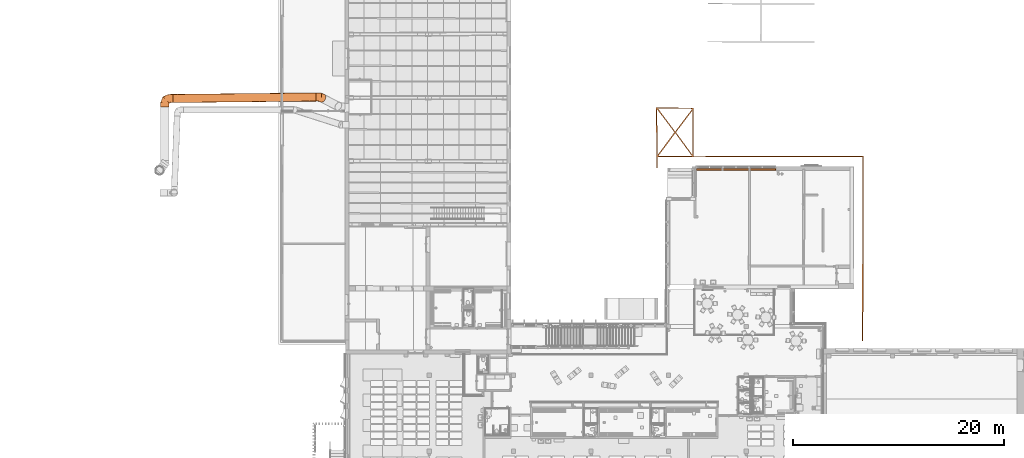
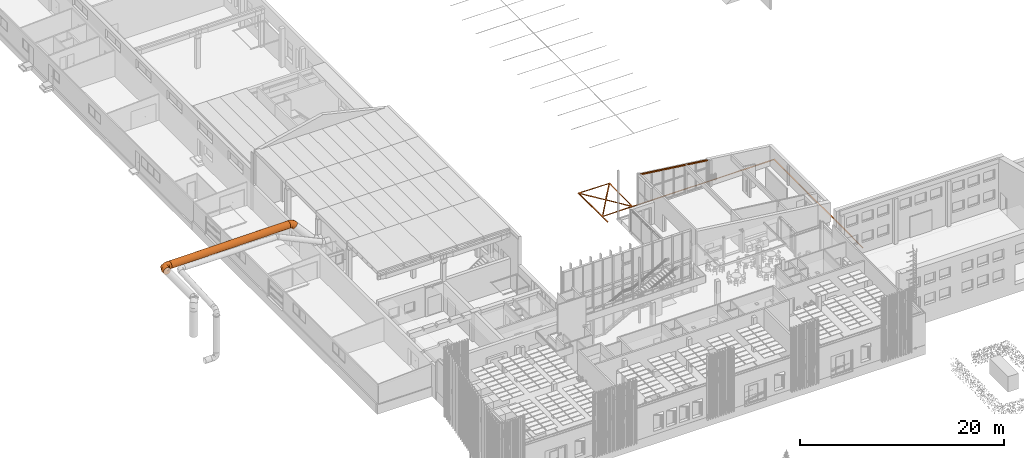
# One storey, part 295 of 301: 5 proxies.
"""IFC2X3 building model written with IfcOpenShell, lengths in millimetres."""

from ifc_helpers import new_model, entity, si_unit, converted_unit, derived_unit, money_unit, direction, frame, origin_with_axes, place, context, subcontext, project, spatial, open_shell, faceted_brep, surface_model, material, type_object, element, save


model = new_model("IFC2X3")

# Units and contexts
model_context = context("Model", 3, precision=0.01, world=origin_with_axes(), true_north=direction((0.0, 1.0)))
body_context = subcontext(model_context, "Body", "Model", "MODEL_VIEW")
ifc_project = project(units=[si_unit("LENGTHUNIT", "METRE", prefix="MILLI"), si_unit("AREAUNIT", "SQUARE_METRE"), si_unit("VOLUMEUNIT", "CUBIC_METRE"), converted_unit("PLANEANGLEUNIT", "DEGREE", entity("IfcPlaneAngleMeasure", 0.0174532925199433), si_unit("PLANEANGLEUNIT", "RADIAN"), dimensions=[0, 0, 0, 0, 0, 0, 0]), money_unit("EUR"), converted_unit("TIMEUNIT", "Year", entity("IfcTimeMeasure", 31557600.0), si_unit("TIMEUNIT", "SECOND"), dimensions=[0, 0, 1, 0, 0, 0, 0]), si_unit("MASSUNIT", "GRAM", prefix="KILO"), si_unit("THERMODYNAMICTEMPERATUREUNIT", "DEGREE_CELSIUS"), si_unit("LUMINOUSINTENSITYUNIT", "LUMEN"), si_unit("ENERGYUNIT", "JOULE", prefix="MEGA"), derived_unit("THERMALCONDUCTANCEUNIT", [(si_unit("POWERUNIT", "WATT"), 1), (si_unit("LENGTHUNIT", "METRE"), -1), (si_unit("THERMODYNAMICTEMPERATUREUNIT", "KELVIN"), -1)]), derived_unit("SPECIFICHEATCAPACITYUNIT", [(si_unit("ENERGYUNIT", "JOULE"), 1), (si_unit("MASSUNIT", "GRAM", prefix="KILO"), -1), (si_unit("THERMODYNAMICTEMPERATUREUNIT", "KELVIN"), -1)]), derived_unit("MASSDENSITYUNIT", [(si_unit("MASSUNIT", "GRAM", prefix="KILO"), 1), (si_unit("VOLUMEUNIT", "CUBIC_METRE"), -1)])], contexts=[model_context])

# Site, building, storey
site_placement = place(None, frame((0.0, 0.0, 8650.0), z_axis=(0.0, 0.0, 1.0), x_axis=(1.0, 0.0, 0.0)))
site = spatial("IfcSite", under=ifc_project, at=site_placement, Name="43301:001:0844", CompositionType="ELEMENT")
building_placement = place(site_placement, origin_with_axes())
building = spatial("IfcBuilding", under=site, at=building_placement, Name="Kuressaare Ametikooli tuulikute mehaanikute õppekorpus", CompositionType="ELEMENT")
storey_placement = place(building_placement, origin_with_axes())
storey = spatial("IfcBuildingStorey", under=building, at=storey_placement, Name="1.korrus", CompositionType="ELEMENT", Elevation=0.0)

# Proxies
ifc_material = material(Name="GENEERILINE - KONSTRUKTRIOON")
building_element_proxy_type_1 = type_object("IfcBuildingElementProxyType", Name="GENEERILINE - KONSTRUKTRIOON 20", PredefinedType="NOTDEFINED")
proxy_1_placement = place(storey_placement, frame((117393.2749186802, 49167.5009282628, -434.8162819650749), z_axis=(0.0, 0.0, 1.0), x_axis=(1.0, 0.0, 0.0)))
element("IfcBuildingElementProxy", 1, at=proxy_1_placement, inside=storey, type_object=building_element_proxy_type_1, material=ifc_material, context=body_context, shape_type="Brep", body=[
    faceted_brep([(0.0, 0.0, 0.0), (0.0, 0.0, -20.00000000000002), (0.9178780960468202, -5754.186910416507, -20.00000000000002), (0.9178780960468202, -5754.186910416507, 0.0), (3553.80888065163, -59.30618157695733, 0.0), (3553.80888065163, -59.30618157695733, -20.00000000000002), (3553.80888065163, -4635.006190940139, -20.00000000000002), (19639.24975310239, -4595.74465616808, -20.00000000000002), (19619.18748188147, -22128.53371317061, -20.00000000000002), (19519.18754734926, -22128.41928609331, -20.00000000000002), (19539.13910017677, -4692.389076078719, -20.00000000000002), (103.0034171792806, -4719.580222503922, -20.00000000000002), (103.0031282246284, -5754.170957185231, -20.00000000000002), (87.3014043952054, -184.6024816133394, -20.00000000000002), (109.4778611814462, -4550.196403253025, -20.00000000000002), (1725.191141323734, -2361.063311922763, -20.00000000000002), (158.7766061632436, -100.7504345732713, -20.00000000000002), (1789.696599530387, -2294.318817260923, -20.00000000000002), (3426.442183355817, -130.7453722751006, -20.00000000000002), (1802.28187815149, -2443.094608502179, -20.00000000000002), (186.5685980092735, -4621.456277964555, -20.00000000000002), (3402.788445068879, -4625.25795627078, -20.00000000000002), (1866.910409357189, -2363.259364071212, -20.00000000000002), (3456.011941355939, -4545.422711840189, -20.00000000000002), (3456.011941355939, -253.3279041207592, -20.00000000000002), (103.0031282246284, -5754.170957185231, 0.0), (103.0034171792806, -4719.580222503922, 0.0), (19539.13910017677, -4692.389076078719, 0.0), (19519.18754734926, -22128.41928609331, 0.0), (19619.18748188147, -22128.53371317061, 0.0), (19639.24975310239, -4595.74465616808, 0.0), (3553.80888065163, -4635.006190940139, 0.0), (1725.191141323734, -2361.063311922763, 0.0), (109.4778611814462, -4550.196403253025, 0.0), (87.3014043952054, -184.6024816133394, 0.0), (3426.442183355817, -130.7453722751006, 0.0), (1789.696599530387, -2294.318817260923, 0.0), (158.7766061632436, -100.7504345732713, 0.0), (3402.788445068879, -4625.25795627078, 0.0), (186.5685980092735, -4621.456277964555, 0.0), (1802.28187815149, -2443.094608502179, 0.0), (3456.011941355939, -253.3279041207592, 0.0), (3456.011941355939, -4545.422711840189, 0.0), (1866.910409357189, -2363.259364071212, 0.0)], [[[0, 1, 2, 3]], [[4, 5, 1, 0]], [[2, 1, 5, 6, 7, 8, 9, 10, 11, 12], [13, 14, 15], [16, 17, 18], [19, 20, 21], [22, 23, 24]], [[3, 2, 12, 25]], [[4, 0, 3, 25, 26, 27, 28, 29, 30, 31], [32, 33, 34], [35, 36, 37], [38, 39, 40], [41, 42, 43]], [[31, 6, 5, 4]], [[30, 7, 6, 31]], [[29, 8, 7, 30]], [[28, 9, 8, 29]], [[27, 10, 9, 28]], [[26, 11, 10, 27]], [[25, 12, 11, 26]], [[33, 14, 13, 34]], [[32, 15, 14, 33]], [[34, 13, 15, 32]], [[36, 17, 16, 37]], [[35, 18, 17, 36]], [[37, 16, 18, 35]], [[39, 20, 19, 40]], [[38, 21, 20, 39]], [[40, 19, 21, 38]], [[42, 23, 22, 43]], [[41, 24, 23, 42]], [[43, 22, 24, 41]]]),
])
building_element_proxy_type_2 = type_object("IfcBuildingElementProxyType", Name="IfcBuildingElementProxy", PredefinedType="NOTDEFINED")
proxy_2_placement = place(storey_placement, frame((71600.243544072, 50013.63915059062, 6479.025789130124), z_axis=(1.0, 0.0, 0.0), x_axis=(0.0, 1.0, 0.0)))
element("IfcBuildingElementProxy", 2, at=proxy_2_placement, inside=storey, type_object=building_element_proxy_type_2, context=body_context, shape_type="SurfaceModel", body=[
    surface_model("IfcShellBasedSurfaceModel", [(0.0, -400.9999999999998, 0.0), (103.78117737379, -387.3362563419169, -1.044866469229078), (240.1730995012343, -387.3362563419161, 13546.05869118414), (136.3919221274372, -400.9999999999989, 13547.10355765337), (200.4898390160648, -347.2761869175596, -2.018527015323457), (336.881761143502, -347.2761869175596, 13545.08503063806), (-103.78117737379, -387.3362563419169, 1.044866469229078), (32.61074475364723, -387.3362563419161, 13548.14842412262), (283.5354494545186, -283.5498192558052, -2.854628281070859), (419.9273715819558, -283.5498192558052, 13544.2489293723), (-200.4898390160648, -347.2761869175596, 2.018527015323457), (-64.09791688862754, -347.2761869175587, 13549.1220846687), (347.2585875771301, -200.4999999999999, -3.496191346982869), (483.6505097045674, -200.499999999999, 13543.60736630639), (-283.5354494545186, -283.5498192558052, 2.85462828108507), (-147.1435273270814, -283.5498192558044, 13549.95818593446), (387.3166268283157, -103.7864370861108, -3.899494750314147), (523.7085489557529, -103.7864370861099, 13543.20406290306), (-347.2585875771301, -200.4999999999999, 3.496191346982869), (-210.8666654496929, -200.499999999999, 13550.59974900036), (400.9796780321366, 0.0, -4.037054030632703), (537.3716001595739, 0.0, 13543.06650362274), (-387.3166268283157, -103.7864370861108, 3.899494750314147), (-250.9247047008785, -103.7864370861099, 13551.00305240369), (387.3166268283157, 103.7864370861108, -3.899494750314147), (523.7085489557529, 103.7864370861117, 13543.20406290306), (-400.9796780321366, 0.0, 4.037054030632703), (-264.5877559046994, 0.0, 13551.140611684), (347.2585875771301, 200.4999999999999, -3.496191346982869), (483.6505097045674, 200.5000000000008, 13543.60736630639), (-387.3166268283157, 103.7864370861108, 3.899494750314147), (-250.9247047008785, 103.7864370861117, 13551.00305240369), (283.5354494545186, 283.5498192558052, -2.85462828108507), (419.9273715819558, 283.5498192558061, 13544.2489293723), (-347.2585875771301, 200.4999999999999, 3.496191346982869), (-210.8666654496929, 200.5000000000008, 13550.59974900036), (200.4898390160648, 347.2761869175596, -2.018527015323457), (336.881761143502, 347.2761869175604, 13545.08503063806), (-283.5354494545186, 283.5498192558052, 2.854628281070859), (-147.1435273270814, 283.5498192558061, 13549.95818593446), (103.78117737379, 387.3362563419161, -1.044866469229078), (240.1730995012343, 387.3362563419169, 13546.05869118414), (-200.4898390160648, 347.2761869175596, 2.018527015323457), (-64.09791688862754, 347.2761869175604, 13549.1220846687), (0.0, 400.9999999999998, 0.0), (136.3919221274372, 401.0000000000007, 13547.10355765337), (-103.78117737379, 387.3362563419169, 1.044866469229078), (32.61074475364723, 387.3362563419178, 13548.14842412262)], [open_shell([[[0, 1, 2, 3]], [[1, 4, 5, 2]], [[6, 0, 3, 7]], [[4, 8, 9, 5]], [[10, 6, 7, 11]], [[8, 12, 13, 9]], [[14, 10, 11, 15]], [[12, 16, 17, 13]], [[18, 14, 15, 19]], [[16, 20, 21, 17]], [[22, 18, 19, 23]], [[20, 24, 25, 21]], [[26, 22, 23, 27]], [[24, 28, 29, 25]], [[30, 26, 27, 31]], [[28, 32, 33, 29]], [[34, 30, 31, 35]], [[32, 36, 37, 33]], [[38, 34, 35, 39]], [[36, 40, 41, 37]], [[42, 38, 39, 43]], [[40, 44, 45, 41]], [[46, 42, 43, 47]], [[44, 46, 47, 45]]])]),
])
proxy_3_placement = place(storey_placement, frame((85147.34710172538, 50150.03107271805, 6479.025789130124), z_axis=(1.0, 0.0, 0.0), x_axis=(0.0, 1.0, 0.0)))
element("IfcBuildingElementProxy", 3, at=proxy_3_placement, inside=storey, type_object=building_element_proxy_type_2, context=body_context, shape_type="SurfaceModel", body=[
    surface_model("IfcShellBasedSurfaceModel", [(-177.4139399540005, -359.6138253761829, 1.786199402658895), (-78.29851652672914, -393.2807151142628, 0.7883076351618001), (-76.91657749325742, -393.2807151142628, 138.0491578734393), (-176.0470763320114, -359.6138253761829, 137.5496870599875), (26.15282140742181, -400.1461740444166, -0.2633059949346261), (27.57895931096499, -400.1461740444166, 141.3875892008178), (-81.33131792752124, -403.2520471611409, 188.21535991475), (-180.0723736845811, -368.7055436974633, 183.2905144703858), (-264.43889656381, -301.4398477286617, 2.662364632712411), (-263.0569575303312, -301.4398477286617, 139.9232148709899), (128.8218877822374, -379.7423324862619, -1.296975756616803), (130.3183359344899, -379.7423324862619, 147.3374724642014), (22.02242953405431, -412.6964030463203, 204.5283331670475), (-94.75633650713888, -431.2950951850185, 229.0677962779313), (-192.3131141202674, -394.2747948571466, 220.5391831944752), (-267.471697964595, -311.4111797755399, 190.0894169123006), (-333.4427793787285, -222.7232426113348, 3.357094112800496), (-332.0166414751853, -222.7232426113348, 145.0079893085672), (222.7119553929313, -333.4596785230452, -2.242258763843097), (224.3000336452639, -333.4596785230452, 155.4933329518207), (122.9454816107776, -396.394994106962, 231.1177320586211), (5.125283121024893, -447.9922564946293, 255.9464816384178), (-140.414404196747, -525.6421982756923, 317.7042208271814), (-237.4731032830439, -487.5926764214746, 308.2086833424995), (-280.8967165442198, -339.4542277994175, 230.9418532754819), (-337.573171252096, -235.2734716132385, 208.1487332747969), (-379.7230878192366, -128.8284165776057, 3.823043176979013), (-378.226639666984, -128.8284165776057, 152.4574913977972), (301.4245712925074, -264.4522985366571, -3.034735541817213), (303.1193550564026, -264.4522985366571, 165.299362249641), (214.5600990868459, -355.4587344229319, 266.1715329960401), (100.5249774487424, -443.2283948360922, 299.343501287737), (-41.99307692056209, -545.3568844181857, 347.417785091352), (-326.5547842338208, -433.8013308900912, 319.5782778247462), (-354.4703176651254, -270.5693250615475, 259.5668817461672), (-385.5994939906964, -145.4810781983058, 236.2377509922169), (-400.1258953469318, -26.15414685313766, 4.028458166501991), (-398.5378170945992, -26.15414685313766, 161.7640498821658), (359.5956007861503, -177.4229314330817, -3.620400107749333), (361.4048936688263, -177.4229314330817, 176.0872956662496), (290.622897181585, -292.6773624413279, 307.3008773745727), (184.9414149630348, -417.3281595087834, 356.301420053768), (51.08362774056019, -545.3932115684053, 395.3244458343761), (-401.5886777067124, -367.933952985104, 351.0381851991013), (-408.0199981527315, -192.314478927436, 304.4635202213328), (-408.2777516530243, -48.15320275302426, 272.4422499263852), (-393.2607843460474, 78.30248475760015, 3.959340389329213), (-391.5660005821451, 78.30248475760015, 172.2934381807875), (393.2607843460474, -78.30248475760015, -3.959340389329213), (395.1845863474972, -78.30248475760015, 187.1219533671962), (345.950321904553, -212.3293249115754, 351.7028683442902), (252.6217549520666, -372.0566087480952, 422.9386499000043), (132.4726861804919, -525.7487040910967, 458.1594432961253), (-457.4613478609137, -294.4792956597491, 400.4444647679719), (-437.8964357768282, -110.0226278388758, 362.5721369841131), (-404.0624584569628, 50.07742085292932, 314.2949533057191), (-359.5956007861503, 177.4229314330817, 3.620400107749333), (-357.7863079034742, 177.4229314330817, 183.328095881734), (400.1258953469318, 26.15414685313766, -4.028458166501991), (402.1564028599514, 26.15414685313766, 197.6513416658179), (376.7719006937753, -119.8902078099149, 396.35158359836), (298.9536940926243, -310.4989239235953, 494.7139737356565), (196.6275685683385, -487.7621027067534, 531.64067623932), (-490.3651645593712, -218.443172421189, 464.4301602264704), (-442.0636006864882, -29.30182545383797, 429.9327258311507), (-373.2408796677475, 142.516537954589, 358.9436685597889), (-301.4245712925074, 264.4522985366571, 3.034735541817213), (-299.5007692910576, 264.4522985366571, 194.1160292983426), (379.7230878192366, 128.8284165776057, -3.823043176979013), (381.845225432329, 128.8284165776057, 206.9579001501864), (380.9871938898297, -21.65958420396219, 438.2042869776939), (320.7797872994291, -236.8501595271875, 566.736021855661), (239.176225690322, -434.0221315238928, 610.7605200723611), (-498.0577870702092, -145.0073194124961, 538.6347521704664), (-420.2375074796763, 44.34693894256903, 501.954773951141), (-317.9134549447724, 222.8645754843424, 403.3456595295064), (-222.7119553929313, 333.4596785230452, 2.242258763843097), (-220.6814478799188, 333.4596785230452, 203.922058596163), (333.4427793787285, 222.7232426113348, -3.357094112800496), (335.6352272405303, 222.7232426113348, 214.4074022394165), (358.3089362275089, 75.66829124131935, 474.4087859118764), (316.6126223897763, -156.1293571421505, 634.0966107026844), (257.2190368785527, -368.1910807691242, 690.1270881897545), (-480.0149758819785, -79.17626865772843, 618.0013202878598), (-373.9055683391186, 105.9046237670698, 573.7300977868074), (-241.8506568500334, 285.6459474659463, 444.475003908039), (-128.8218877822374, 379.7423324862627, 1.296975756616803), (-126.6997501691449, 379.7423324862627, 212.0779190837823), (264.43889656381, 301.4398477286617, -2.662364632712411), (266.6755432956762, 301.4398477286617, 219.4921766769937), (310.2826134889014, 165.4606846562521, 502.4978036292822), (286.7361847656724, -73.83750605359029, 692.2052274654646), (249.5264143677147, -294.7552277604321, 764.3316801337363), (-437.4663187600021, -25.43629747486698, 697.121164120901), (-306.2252283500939, 151.1761745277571, 640.3673276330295), (-150.236039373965, 326.5822071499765, 479.5288048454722), (-26.15282140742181, 400.1461740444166, 0.2633059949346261), (-23.96037354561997, 400.1461740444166, 218.0278023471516), (177.4139399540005, 359.6138253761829, -1.786199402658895), (179.6656620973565, 359.6138253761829, 221.8657044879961), (240.1811402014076, 241.5983928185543, 520.5571199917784), (233.1865042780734, 4.417340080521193, 737.1018659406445), (216.6225976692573, -218.7191045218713, 828.317375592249), (-373.3114363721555, 12.55030390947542, 770.6023970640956), (-221.8087908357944, 177.0764098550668, 697.3252463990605), (-49.31298729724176, 342.8836160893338, 506.1182037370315), (78.29851652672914, 393.2807151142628, -0.7883076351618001), (80.53516325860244, 393.2807151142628, 221.3662336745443), (152.7818159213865, 298.8927567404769, 527.3560224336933), (159.6129031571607, 73.30224281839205, 765.7268944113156), (160.7499275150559, -145.2644471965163, 877.7236551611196), (-291.9223779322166, 32.19481138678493, 833.4373945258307), (-126.4090965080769, 181.8402715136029, 740.7222660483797), (54.04076016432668, 333.4392602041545, 522.4311769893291), (71.02930073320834, 128.1228098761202, 776.1295644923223), (85.71603404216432, -79.39706929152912, 909.1835625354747), (-198.8456732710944, 32.15848423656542, 881.3440552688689), (-26.52747687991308, 165.1431102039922, 767.6009514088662), (-3.365646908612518, -25.60572376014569, 920.5531570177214), (-100.4243459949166, 12.44379809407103, 911.0576195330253)], [open_shell([[[0, 1, 2, 3]], [[1, 4, 5, 2]], [[3, 2, 6, 7]], [[8, 0, 3, 9]], [[4, 10, 11, 5]], [[2, 5, 12, 6]], [[7, 6, 13, 14]], [[9, 3, 7, 15]], [[16, 8, 9, 17]], [[10, 18, 19, 11]], [[5, 11, 20, 12]], [[6, 12, 21, 13]], [[14, 13, 22, 23]], [[15, 7, 14, 24]], [[17, 9, 15, 25]], [[26, 16, 17, 27]], [[18, 28, 29, 19]], [[11, 19, 30, 20]], [[12, 20, 31, 21]], [[13, 21, 32, 22]], [[24, 14, 23, 33]], [[25, 15, 24, 34]], [[27, 17, 25, 35]], [[36, 26, 27, 37]], [[28, 38, 39, 29]], [[19, 29, 40, 30]], [[20, 30, 41, 31]], [[21, 31, 42, 32]], [[34, 24, 33, 43]], [[35, 25, 34, 44]], [[37, 27, 35, 45]], [[46, 36, 37, 47]], [[38, 48, 49, 39]], [[29, 39, 50, 40]], [[30, 40, 51, 41]], [[31, 41, 52, 42]], [[44, 34, 43, 53]], [[45, 35, 44, 54]], [[47, 37, 45, 55]], [[56, 46, 47, 57]], [[48, 58, 59, 49]], [[39, 49, 60, 50]], [[40, 50, 61, 51]], [[41, 51, 62, 52]], [[54, 44, 53, 63]], [[55, 45, 54, 64]], [[57, 47, 55, 65]], [[66, 56, 57, 67]], [[58, 68, 69, 59]], [[49, 59, 70, 60]], [[50, 60, 71, 61]], [[51, 61, 72, 62]], [[64, 54, 63, 73]], [[65, 55, 64, 74]], [[67, 57, 65, 75]], [[76, 66, 67, 77]], [[68, 78, 79, 69]], [[59, 69, 80, 70]], [[60, 70, 81, 71]], [[61, 71, 82, 72]], [[74, 64, 73, 83]], [[75, 65, 74, 84]], [[77, 67, 75, 85]], [[86, 76, 77, 87]], [[78, 88, 89, 79]], [[69, 79, 90, 80]], [[70, 80, 91, 81]], [[71, 81, 92, 82]], [[84, 74, 83, 93]], [[85, 75, 84, 94]], [[87, 77, 85, 95]], [[96, 86, 87, 97]], [[88, 98, 99, 89]], [[79, 89, 100, 90]], [[80, 90, 101, 91]], [[81, 91, 102, 92]], [[94, 84, 93, 103]], [[95, 85, 94, 104]], [[97, 87, 95, 105]], [[106, 96, 97, 107]], [[98, 106, 107, 99]], [[89, 99, 108, 100]], [[90, 100, 109, 101]], [[91, 101, 110, 102]], [[104, 94, 103, 111]], [[105, 95, 104, 112]], [[107, 97, 105, 113]], [[99, 107, 113, 108]], [[100, 108, 114, 109]], [[101, 109, 115, 110]], [[112, 104, 111, 116]], [[113, 105, 112, 117]], [[108, 113, 117, 114]], [[109, 114, 118, 115]], [[117, 112, 116, 119]], [[114, 117, 119, 118]]])]),
])
proxy_4_placement = place(storey_placement, frame((70808.29751720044, 49213.6796931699, 6479.025789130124), z_axis=(1.0, 0.0, 0.0), x_axis=(0.0, 1.0, 0.0)))
element("IfcBuildingElementProxy", 4, at=proxy_4_placement, inside=storey, type_object=building_element_proxy_type_2, context=body_context, shape_type="SurfaceModel", body=[
    surface_model("IfcShellBasedSurfaceModel", [(0.0, 0.0, 400.9999999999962), (0.0, -103.7864370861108, 387.3362563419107), (267.5949842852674, -103.7864370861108, 387.3362563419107), (264.8949677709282, 0.0, 400.9999999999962), (0.0, -200.4999999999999, 347.2761869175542), (275.5110321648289, -200.4999999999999, 347.2761869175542), (367.7514534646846, -103.7864370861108, 428.527395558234), (357.3572550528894, 0.0, 439.0267693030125), (0.0, 103.7864370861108, 387.3362563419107), (267.5949842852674, 103.7864370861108, 387.3362563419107), (0.0, -283.5498192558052, 283.5498192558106), (288.1036458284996, -283.5498192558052, 283.5498192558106), (398.2257012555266, -200.4999999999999, 397.7447892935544), (409.9488270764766, -103.7864370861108, 528.2640985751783), (396.312958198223, 0.0, 531.1015375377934), (367.7514534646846, 103.7864370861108, 428.527395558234), (0.0, 200.5000000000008, 347.2761869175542), (275.5110321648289, 200.5000000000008, 347.2761869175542), (0.0, -347.2761869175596, 200.5000000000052), (304.5146594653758, -347.2761869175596, 200.5000000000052), (446.7032287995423, -283.5498192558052, 348.776734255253), (449.9271717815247, -200.4999999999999, 519.9451484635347), (412.6428305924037, -103.7864370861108, 795.845521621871), (398.9797793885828, 0.0, 795.9830809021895), (409.9488270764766, 103.7864370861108, 528.2640985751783), (398.2257012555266, 200.5000000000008, 397.7447892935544), (0.0, 283.5498192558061, 283.5498192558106), (288.1036458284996, 283.5498192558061, 283.5498192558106), (0.0, -387.3362563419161, 103.7864370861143), (323.6256896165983, -387.3362563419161, 103.7864370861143), (509.8803727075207, -347.2761869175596, 284.9603224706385), (513.523534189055, -283.5498192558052, 506.7116099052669), (452.7008698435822, -200.4999999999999, 795.4422182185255), (412.6428305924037, 103.7864370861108, 795.845521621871), (449.9271717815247, 200.5000000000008, 519.9451484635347), (446.7032287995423, 283.5498192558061, 348.776734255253), (0.0, 347.2761869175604, 200.5000000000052), (304.5146594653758, 347.2761869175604, 200.5000000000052), (0.0, -400.9999999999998, 0.0), (344.1343511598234, -400.9999999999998, 0.0), (583.4517150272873, -387.3362563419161, 210.6445369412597), (596.403927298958, -347.2761869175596, 489.4653266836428), (516.4240079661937, -283.5498192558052, 794.8006551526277), (452.7008698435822, 200.5000000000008, 795.4422182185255), (513.523534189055, 283.5498192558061, 506.7116099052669), (509.8803727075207, 347.2761869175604, 284.9603224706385), (0.0, 387.3362563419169, 103.7864370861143), (323.6256896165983, 387.3362563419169, 103.7864370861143), (0.0, -387.3362563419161, -103.7864370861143), (364.6430127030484, -387.3362563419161, -103.7864370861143), (662.403490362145, -400.9999999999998, 130.8938756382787), (692.9201892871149, -387.3362563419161, 469.3816044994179), (599.4696184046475, -347.2761869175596, 793.964553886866), (516.4240079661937, 283.5498192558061, 794.8006551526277), (596.403927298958, 347.2761869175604, 489.4653266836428), (583.4517150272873, 387.3362563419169, 210.6445369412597), (0.0, 400.9999999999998, 0.0), (344.1343511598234, 400.9999999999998, 0.0), (0.0, -347.2761869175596, -200.5000000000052), (383.7540428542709, -347.2761869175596, -200.5000000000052), (741.3552656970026, -387.3362563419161, 51.14321433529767), (796.4948963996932, -400.9999999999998, 447.8291158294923), (696.1782800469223, -387.3362563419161, 792.9908933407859), (599.4696184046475, 347.2761869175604, 793.964553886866), (692.9201892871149, 387.3362563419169, 469.3816044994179), (662.403490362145, 400.9999999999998, 130.8938756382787), (0.0, 387.3362563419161, -103.7864370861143), (364.6430127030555, 387.3362563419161, -103.7864370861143), (0.0, -283.5498192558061, -283.5498192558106), (400.1650564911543, -283.5498192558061, -283.5498192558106), (814.9266080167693, -347.2761869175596, -23.17257119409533), (900.0696035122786, -387.3362563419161, 426.2766271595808), (799.9594574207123, -400.9999999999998, 791.9460268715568), (696.1782800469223, 387.3362563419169, 792.9908933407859), (796.4948963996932, 400.9999999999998, 447.8291158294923), (741.3552656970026, 387.3362563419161, 51.14321433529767), (0.0, 347.2761869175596, -200.5000000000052), (383.7540428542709, 347.2761869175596, -200.5000000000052), (0.0, -200.4999999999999, -347.2761869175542), (412.757670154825, -200.4999999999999, -347.2761869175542), (878.1037519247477, -283.5498192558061, -86.98898297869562), (996.5858655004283, -347.2761869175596, 406.1929049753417), (903.7406347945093, -387.3362563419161, 790.9011604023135), (799.9594574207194, 400.9999999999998, 791.9460268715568), (900.0696035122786, 387.3362563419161, 426.2766271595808), (814.9266080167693, 347.2761869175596, -23.17257119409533), (0.0, 283.5498192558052, -283.5498192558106), (400.1650564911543, 283.5498192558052, -283.5498192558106), (0.0, -103.7864370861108, -387.3362563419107), (420.6737180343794, -103.7864370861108, -387.3362563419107), (926.5812794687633, -200.4999999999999, -135.957038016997), (1079.466258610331, -283.5498192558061, 388.9466217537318), (1000.449296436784, -347.2761869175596, 789.9274998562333), (903.7406347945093, 387.3362563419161, 790.9011604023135), (996.5858655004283, 347.2761869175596, 406.1929049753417), (878.1037519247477, 283.5498192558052, -86.98898297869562), (0.0, 200.4999999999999, -347.2761869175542), (412.757670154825, 200.4999999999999, -347.2761869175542), (0.0, 0.0, -400.9999999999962), (423.3737345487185, 0.0, -400.9999999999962), (957.0555272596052, -103.7864370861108, -166.7396442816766), (1143.062621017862, -200.4999999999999, 375.713083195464), (1083.494906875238, -283.5498192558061, 789.0913985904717), (1000.449296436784, 347.2761869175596, 789.9274998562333), (1079.466258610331, 283.5498192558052, 388.9466217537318), (926.5812794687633, 200.4999999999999, -135.957038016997), (0.0, 103.7864370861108, -387.3362563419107), (420.6737180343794, 103.7864370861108, -387.3362563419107), (967.4497256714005, 0.0, -177.2390180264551), (1183.040965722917, -103.7864370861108, 367.3941330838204), (1147.21804499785, -200.4999999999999, 788.4498355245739), (1083.494906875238, 283.5498192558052, 789.0913985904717), (1143.062621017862, 200.4999999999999, 375.713083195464), (957.0555272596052, 103.7864370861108, -166.7396442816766), (1196.67683460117, 0.0, 364.5566941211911), (1187.276084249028, -103.7864370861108, 788.0465321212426), (1147.21804499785, 200.4999999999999, 788.4498355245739), (1183.040965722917, 103.7864370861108, 367.3941330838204), (1200.939135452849, 0.0, 787.9089728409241), (1187.276084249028, 103.7864370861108, 788.0465321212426)], [open_shell([[[0, 1, 2, 3]], [[1, 4, 5, 2]], [[3, 2, 6, 7]], [[8, 0, 3, 9]], [[4, 10, 11, 5]], [[2, 5, 12, 6]], [[7, 6, 13, 14]], [[9, 3, 7, 15]], [[16, 8, 9, 17]], [[10, 18, 19, 11]], [[5, 11, 20, 12]], [[6, 12, 21, 13]], [[14, 13, 22, 23]], [[15, 7, 14, 24]], [[17, 9, 15, 25]], [[26, 16, 17, 27]], [[18, 28, 29, 19]], [[11, 19, 30, 20]], [[12, 20, 31, 21]], [[13, 21, 32, 22]], [[24, 14, 23, 33]], [[25, 15, 24, 34]], [[27, 17, 25, 35]], [[36, 26, 27, 37]], [[28, 38, 39, 29]], [[19, 29, 40, 30]], [[20, 30, 41, 31]], [[21, 31, 42, 32]], [[34, 24, 33, 43]], [[35, 25, 34, 44]], [[37, 27, 35, 45]], [[46, 36, 37, 47]], [[38, 48, 49, 39]], [[29, 39, 50, 40]], [[30, 40, 51, 41]], [[31, 41, 52, 42]], [[44, 34, 43, 53]], [[45, 35, 44, 54]], [[47, 37, 45, 55]], [[56, 46, 47, 57]], [[48, 58, 59, 49]], [[39, 49, 60, 50]], [[40, 50, 61, 51]], [[41, 51, 62, 52]], [[54, 44, 53, 63]], [[55, 45, 54, 64]], [[57, 47, 55, 65]], [[66, 56, 57, 67]], [[58, 68, 69, 59]], [[49, 59, 70, 60]], [[50, 60, 71, 61]], [[51, 61, 72, 62]], [[64, 54, 63, 73]], [[65, 55, 64, 74]], [[67, 57, 65, 75]], [[76, 66, 67, 77]], [[68, 78, 79, 69]], [[59, 69, 80, 70]], [[60, 70, 81, 71]], [[61, 71, 82, 72]], [[74, 64, 73, 83]], [[75, 65, 74, 84]], [[77, 67, 75, 85]], [[86, 76, 77, 87]], [[78, 88, 89, 79]], [[69, 79, 90, 80]], [[70, 80, 91, 81]], [[71, 81, 92, 82]], [[84, 74, 83, 93]], [[85, 75, 84, 94]], [[87, 77, 85, 95]], [[96, 86, 87, 97]], [[88, 98, 99, 89]], [[79, 89, 100, 90]], [[80, 90, 101, 91]], [[81, 91, 102, 92]], [[94, 84, 93, 103]], [[95, 85, 94, 104]], [[97, 87, 95, 105]], [[106, 96, 97, 107]], [[98, 106, 107, 99]], [[89, 99, 108, 100]], [[90, 100, 109, 101]], [[91, 101, 110, 102]], [[104, 94, 103, 111]], [[105, 95, 104, 112]], [[107, 97, 105, 113]], [[99, 107, 113, 108]], [[100, 108, 114, 109]], [[101, 109, 115, 110]], [[112, 104, 111, 116]], [[113, 105, 112, 117]], [[108, 113, 117, 114]], [[109, 114, 118, 115]], [[117, 112, 116, 119]], [[114, 117, 119, 118]]])]),
])
building_element_proxy_type_3 = type_object("IfcBuildingElementProxyType", Name="GENEERILINE - KONSTRUKTRIOON 160 x 130", PredefinedType="NOTDEFINED")
proxy_5_placement = place(storey_placement, frame((128716.3501978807, 43300.53176304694, 3169.882544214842), z_axis=(0.0, 0.0, 1.0), x_axis=(0.0, 1.0, 0.0)))
element("IfcBuildingElementProxy", 5, at=proxy_5_placement, inside=storey, type_object=building_element_proxy_type_3, material=ifc_material, context=body_context, shape_type="Brep", body=[
    faceted_brep([(75.00000000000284, 4971.779909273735, 499.4704948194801), (75.00000000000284, 5126.779909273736, 519.1273011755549), (-79.9999999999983, 5126.779909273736, 519.1273011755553), (-79.9999999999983, 7536.779909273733, 824.7589354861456), (75.00000000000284, 7536.779909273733, 824.7589354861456), (75.00000000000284, 7614.279909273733, 834.5873386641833), (79.9999999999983, 7614.279909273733, 834.5873386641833), (79.9999999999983, 0.0, -131.0412143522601), (-79.9999999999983, 0.0, -131.0412143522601), (-79.9999999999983, 4971.779909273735, 499.4704948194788), (75.00000000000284, 5126.779909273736, 530.1174557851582), (75.00000000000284, 4971.779909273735, 530.1174557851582), (-79.9999999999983, 5126.779909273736, 530.1174557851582), (-79.9999999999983, 4971.779909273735, 530.1174557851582), (-79.9999999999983, 0.0, 0.0), (-79.9999999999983, 7536.779909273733, 955.8001498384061), (-79.9999999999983, 7536.779909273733, 839.7970896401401), (0.0, 7536.779909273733, 955.8001498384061), (0.0, 7536.779909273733, 839.7970896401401), (75.00000000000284, 7536.779909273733, 839.7970896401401), (75.00000000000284, 7614.279909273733, 839.7970896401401), (0.0, 7614.279909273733, 839.7970896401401), (0.0, 7614.279909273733, 965.6285530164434), (79.9999999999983, 7614.279909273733, 965.6285530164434), (79.9999999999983, 0.0, 0.0)], [[[0, 1, 2, 3, 4, 5, 6, 7, 8, 9]], [[10, 1, 0, 11]], [[12, 2, 1, 10]], [[12, 13, 9, 8, 14, 15, 16, 3, 2]], [[17, 18, 19, 4, 3, 16, 15]], [[20, 5, 4, 19]], [[5, 20, 21, 22, 23, 6]], [[23, 24, 7, 6]], [[7, 24, 14, 8]], [[11, 0, 9, 13]], [[11, 13, 12, 10]], [[23, 22, 17, 15, 14, 24]], [[22, 21, 18, 17]], [[19, 18, 21, 20]]]),
])

save(model, "model.ifc")
